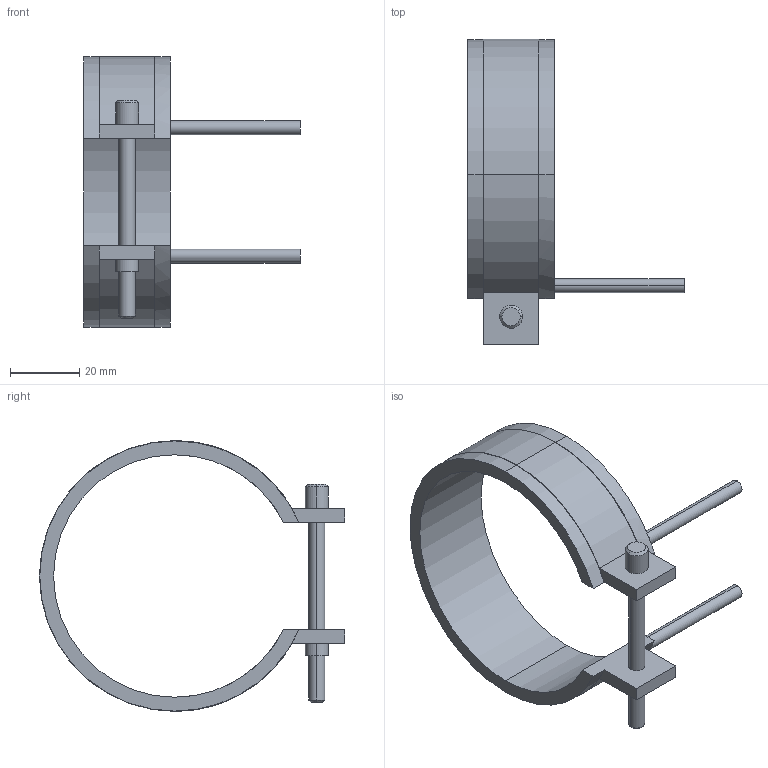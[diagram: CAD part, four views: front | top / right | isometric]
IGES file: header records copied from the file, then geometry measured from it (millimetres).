
Start section: START RECORD GO HERE.
Global section: file name: 14070025.igs; native system: DASSAULT SYSTEMES CATIA V5 R20 - www.3ds.com; preprocessor: CATIA Version 5 Release 20 ; author: Utente; organization: NB04-ASUS; date: 20210403.100044; units: millimetre
Bounding box: 62.5 x 88.1 x 78.2 mm (x, y, z)
Surface area: 14781.8 mm2 (no closed solid volume)
Topology: 0 solids, 0 shells, 45 faces, 232 edges, 232 vertices
Faces by surface type: revolution 28, plane 17
